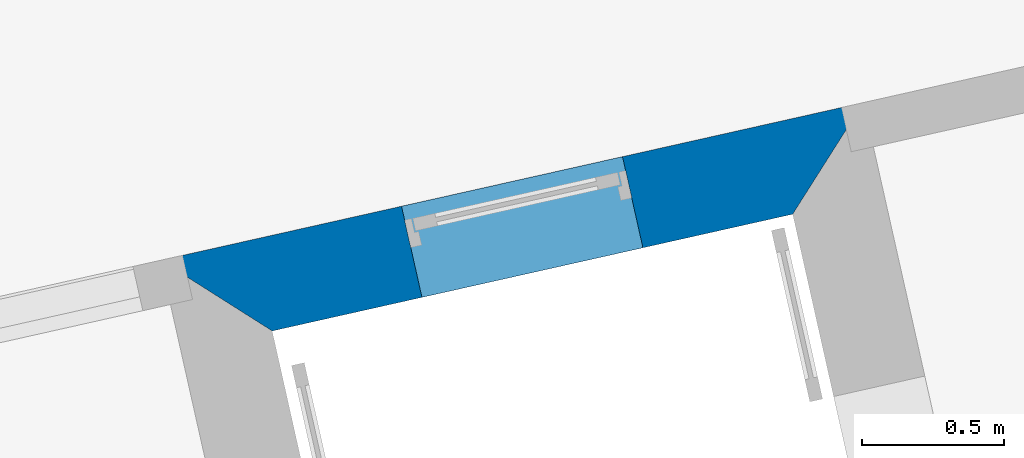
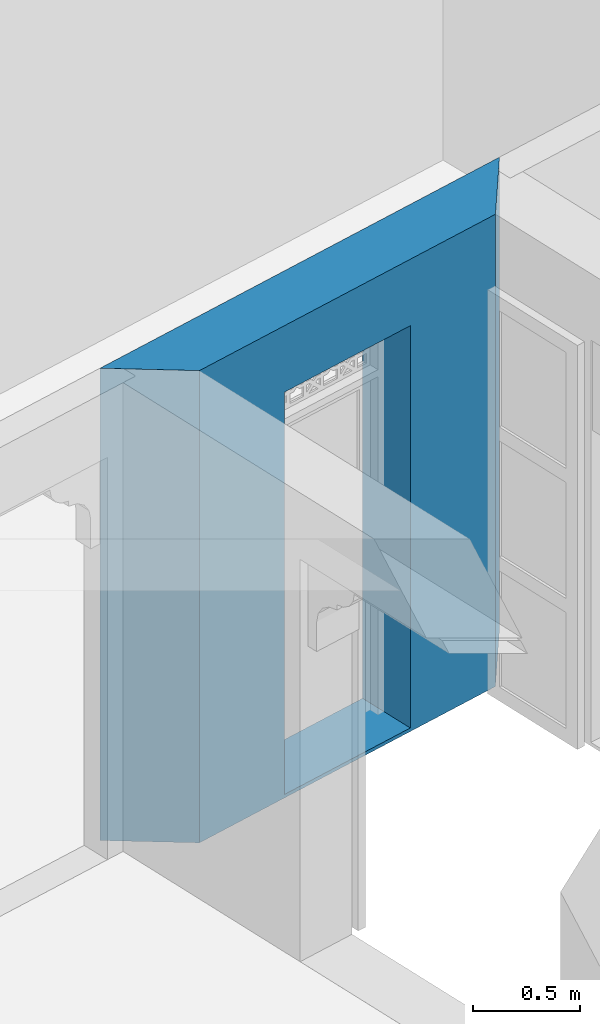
# One storey, part 11 of 13: 1 wall, 1 opening.
"""IFC4 building model written with IfcOpenShell, lengths in metres."""

import ifcopenshell
import ifcopenshell.guid

model = None  # the IFC model being written
_history = None  # IfcOwnerHistory: only IFC2X3 demands one
_inside = {}  # id of a spatial element -> (the spatial element, [elements in it])
_under = {}  # id of a project, library or spatial element -> (it, [spatial elements below it])
_declared = {}  # id of a project -> (the project, [libraries it declares])
_typed = {}  # id of a type object -> (the type object, [elements of that type])
_made_of = {}  # id of a material, layer set ... -> (it, [elements and type objects made of it])


def new_model(schema):
    """Start an empty IFC model of exactly this schema.

    Asked for "IFC4X3", IfcOpenShell would pick the latest addendum, in which some entities
    have other attributes; the version numbers below select the first issue.
    IFC2X3 requires an IfcOwnerHistory on every rooted entity: one is made here for all.
    """
    global model, _history
    if schema == "IFC4X3":
        model = ifcopenshell.file(schema_version=(4, 3, 0, 0))
    else:
        model = ifcopenshell.file(schema=schema)
    _inside.clear()
    _under.clear()
    _declared.clear()
    _typed.clear()
    _made_of.clear()
    _history = None
    if model.schema == "IFC2X3":
        org = make("IfcOrganization", Name="unknown")
        user = make(
            "IfcPersonAndOrganization",
            ThePerson=make("IfcPerson", FamilyName="unknown"),
            TheOrganization=org,
        )
        app = make(
            "IfcApplication",
            ApplicationDeveloper=org,
            Version="unknown",
            ApplicationFullName="unknown",
            ApplicationIdentifier="unknown",
        )
        _history = make(
            "IfcOwnerHistory",
            OwningUser=user,
            OwningApplication=app,
            ChangeAction="ADDED",
            CreationDate=0,
        )
    return model


def make(cls, **values):
    """One entity of the class cls with the attributes given. An attribute that is None is left unset."""
    return model.create_entity(
        cls, **{name: value for name, value in values.items() if value is not None}
    )


def rooted(cls, **values):
    """An entity with a GlobalId (a new one), such as an element, a storey or a relation."""
    return make(cls, GlobalId=ifcopenshell.guid.new(), OwnerHistory=_history, **values)


def si_unit(unit_type, name, prefix=None):
    """IfcSIUnit, for example si_unit("LENGTHUNIT", "METRE", prefix="MILLI")."""
    return make("IfcSIUnit", UnitType=unit_type, Prefix=prefix, Name=name)


def assignment(units):
    """IfcUnitAssignment: the units of a project."""
    return None if units is None else make("IfcUnitAssignment", Units=units)


def point(xyz):
    """IfcCartesianPoint."""
    return None if xyz is None else make("IfcCartesianPoint", Coordinates=xyz)


def direction(xyz):
    """IfcDirection."""
    return None if xyz is None else make("IfcDirection", DirectionRatios=xyz)


def frame(location, z_axis=None, x_axis=None):
    """IfcAxis2Placement3D, a coordinate frame: its origin and axes. An axis left out is left unset."""
    return make(
        "IfcAxis2Placement3D",
        Location=point(location),
        Axis=direction(z_axis),
        RefDirection=direction(x_axis),
    )


def origin_with_axes():
    """The frame at (0, 0, 0) with the z axis (0, 0, 1) and the x axis (1, 0, 0) written out."""
    return frame((0.0, 0.0, 0.0), z_axis=(0.0, 0.0, 1.0), x_axis=(1.0, 0.0, 0.0))


def place(relative_to, where):
    """IfcLocalPlacement: puts the frame where relative to a parent placement (None: the world)."""
    return make(
        "IfcLocalPlacement", PlacementRelTo=relative_to, RelativePlacement=where
    )


def context(
    kind, dimensions, precision=None, world=None, true_north=None, identifier=None
):
    """IfcGeometricRepresentationContext, for example the 3D "Model" context."""
    return make(
        "IfcGeometricRepresentationContext",
        ContextIdentifier=identifier,
        ContextType=kind,
        CoordinateSpaceDimension=dimensions,
        Precision=precision,
        WorldCoordinateSystem=world,
        TrueNorth=true_north,
    )


def subcontext(parent, identifier, kind, view, scale=None):
    """IfcGeometricRepresentationSubContext, for example "Body" below "Model"."""
    return make(
        "IfcGeometricRepresentationSubContext",
        ContextIdentifier=identifier,
        ContextType=kind,
        ParentContext=parent,
        TargetScale=scale,
        TargetView=view,
    )


def project(units=None, contexts=None):
    """IfcProject with its units and contexts."""
    return rooted(
        "IfcProject",
        Name="project",
        RepresentationContexts=contexts,
        UnitsInContext=assignment(units),
    )


def spatial(cls, under=None, at=None, **own):
    """A site, building, storey or space (cls), placed at a placement, below another one or the project."""
    s = rooted(cls, ObjectPlacement=at, **own)
    if under is not None:
        _under.setdefault(under.id(), (under, []))[1].append(s)
    return s


def polyline(points):
    """IfcPolyline through the points."""
    return make("IfcPolyline", Points=[point(p) for p in points])


def outline(outer, holes=None, kind="AREA"):
    """IfcArbitraryClosedProfileDef: a profile drawn as a closed curve; with holes, ...WithVoids."""
    if holes is None:
        return make("IfcArbitraryClosedProfileDef", ProfileType=kind, OuterCurve=outer)
    return make(
        "IfcArbitraryProfileDefWithVoids",
        ProfileType=kind,
        OuterCurve=outer,
        InnerCurves=holes,
    )


def extrude(swept, where, along, depth):
    """IfcExtrudedAreaSolid: the profile swept, set in the frame where, extruded along a direction by depth."""
    return make(
        "IfcExtrudedAreaSolid",
        SweptArea=swept,
        Position=where,
        ExtrudedDirection=direction(along),
        Depth=depth,
    )


def shape(context_of_items, identifier, shape_type, items):
    """IfcShapeRepresentation: the items that make up one representation, for example the "Body"."""
    return make(
        "IfcShapeRepresentation",
        ContextOfItems=context_of_items,
        RepresentationIdentifier=identifier,
        RepresentationType=shape_type,
        Items=items,
    )


def material(Name=None, Category=None):
    """IfcMaterial."""
    return make("IfcMaterial", Name=Name, Category=Category)


def layer(
    of_material, thickness, ventilated=None, Name=None, Category=None, Priority=None
):
    """IfcMaterialLayer: one layer of a wall or slab, of a material (None: an air gap)."""
    return make(
        "IfcMaterialLayer",
        Material=of_material,
        LayerThickness=thickness,
        IsVentilated=ventilated,
        Name=Name,
        Category=Category,
        Priority=Priority,
    )


def layer_set(layers, Name=None):
    """IfcMaterialLayerSet."""
    return make("IfcMaterialLayerSet", MaterialLayers=layers, LayerSetName=Name)


def layer_usage(for_layer_set, set_direction, sense, offset, extent=None):
    """IfcMaterialLayerSetUsage: how a layer set lies in its element."""
    return make(
        "IfcMaterialLayerSetUsage",
        ForLayerSet=for_layer_set,
        LayerSetDirection=set_direction,
        DirectionSense=sense,
        OffsetFromReferenceLine=offset,
        ReferenceExtent=extent,
    )


def made_of(thing, what):
    """Note that an element or type object is made of a material, layer set ...; save() writes the relation."""
    if what is not None:
        _made_of.setdefault(what.id(), (what, []))[1].append(thing)
    return thing


def type_object(cls, material=None, **own):
    """A type object (cls), such as IfcWallType, which elements share."""
    return made_of(rooted(cls, **own), material)


def element(
    cls,
    number,
    at=None,
    inside=None,
    cuts=None,
    type_object=None,
    material=None,
    context=None,
    identifier="Body",
    shape_type=None,
    held_by="IfcProductDefinitionShape",
    body=None,
    shapes=None,
    **own,
):
    """One element of the class cls, such as IfcWall. Its Tag is "e" and its number.

    at: its placement. inside: the storey or other place that contains it. cuts: it is an
    opening in that element (IfcRelVoidsElement). A single representation is given by context,
    identifier, shape_type and body (its items); several are given by shapes. held_by: the class
    of the entity that holds the representations. save() writes the other relations.
    """
    e = rooted(cls, Tag="e%d" % number, ObjectPlacement=at, **own)
    if body is not None:
        shapes = [shape(context, identifier, shape_type, body)]
    if shapes is not None:
        e.Representation = make(held_by, Representations=shapes)
    if inside is not None:
        _inside.setdefault(inside.id(), (inside, []))[1].append(e)
    if cuts is not None:
        rooted(
            "IfcRelVoidsElement", RelatingBuildingElement=cuts, RelatedOpeningElement=e
        )
    if type_object is not None:
        _typed.setdefault(type_object.id(), (type_object, []))[1].append(e)
    return made_of(e, material)


def aggregate(whole, parts):
    """IfcRelAggregates: a whole, such as a stair, and the parts it consists of."""
    return rooted("IfcRelAggregates", RelatingObject=whole, RelatedObjects=parts)


def save(model, path):
    """Write the relations noted so far, then the file.

    IfcRelAggregates (storeys below a building ...), IfcRelContainedInSpatialStructure (elements
    in a storey), IfcRelDefinesByType, IfcRelAssociatesMaterial and IfcRelDeclares: one each for
    every whole, place, type object, material and project.
    """
    for whole, parts in _under.values():
        aggregate(whole, parts)
    for where, things in _inside.values():
        rooted(
            "IfcRelContainedInSpatialStructure",
            RelatedElements=things,
            RelatingStructure=where,
        )
    for kind, things in _typed.values():
        rooted("IfcRelDefinesByType", RelatedObjects=things, RelatingType=kind)
    for what, things in _made_of.values():
        rooted("IfcRelAssociatesMaterial", RelatedObjects=things, RelatingMaterial=what)
    for by, libraries in _declared.values():
        rooted("IfcRelDeclares", RelatingContext=by, RelatedDefinitions=libraries)
    model.write(path)


model = new_model("IFC4")

# Units and contexts
model_context = context("Model", 3, world=origin_with_axes())
body_context = subcontext(model_context, "Body", "Model", "MODEL_VIEW")
ifc_project = project(units=[si_unit("PLANEANGLEUNIT", "RADIAN"), si_unit("MASSUNIT", "GRAM", prefix="KILO"), si_unit("FORCEUNIT", "NEWTON", prefix="KILO"), si_unit("LENGTHUNIT", "METRE"), si_unit("AREAUNIT", "SQUARE_METRE"), si_unit("VOLUMEUNIT", "CUBIC_METRE")], contexts=[model_context, model_context])

# Site, building, storey
site_placement = place(None, origin_with_axes())
site = spatial("IfcSite", under=ifc_project, at=site_placement, Name="Site plot-10", CompositionType="ELEMENT")
building_placement = place(None, origin_with_axes())
building = spatial("IfcBuilding", under=site, at=building_placement, Name="Building plot-10", CompositionType="ELEMENT")
storey_placement = place(None, origin_with_axes())
storey = spatial("IfcBuildingStorey", under=building, at=storey_placement, Name="plot-10 0", CompositionType="ELEMENT", Elevation=0.0)

# Wall, opening
ifc_material = material(Name="Masonry")
ifc_layer = layer(ifc_material, 0.33, ventilated=False)
ifc_layer_set = layer_set([ifc_layer], Name="exterior_0.08_0.25")
ifc_layer_usage = layer_usage(ifc_layer_set, "AXIS2", "POSITIVE", -0.25)
wall_type = type_object("IfcWallType", Name="exterior_0.08_0.25", PredefinedType="SOLIDWALL", material=ifc_layer_set)
wall_placement = place(storey_placement, frame((-21.5459217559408, 17.1782132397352, 0.0), z_axis=(0.0, 0.0, 1.0), x_axis=(0.975741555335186, 0.218925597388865, 0.0)))
wall = element("IfcWall", 1, at=wall_placement, inside=storey, type_object=wall_type, material=ifc_layer_usage, Name="exterior", context=body_context, shape_type="SweptSolid", body=[
    extrude(outline(polyline([(-0.0799999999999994, 0.0800000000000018), (0.249999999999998, -0.249999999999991), (2.13436903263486, -0.250000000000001), (2.46436903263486, 0.0799999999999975), (-0.0799999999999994, 0.0800000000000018)])), origin_with_axes(), (0.0, 0.0, 1.0), 2.7),
])
opening_placement = place(wall_placement, frame((0.792184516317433, 0.0, 0.02)))
element("IfcOpeningElement", 2, at=opening_placement, cuts=wall, Name="My Opening", ObjectType="Opening", context=body_context, shape_type="SweptSolid", body=[
    extrude(outline(polyline([(0.0, -0.270000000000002), (0.800000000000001, -0.270000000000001), (0.800000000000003, 1.1), (1.55431223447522e-15, 1.1), (0.0, -0.270000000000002)])), origin_with_axes(), (0.0, 0.0, 1.0), 2.3),
])

save(model, "model.ifc")
